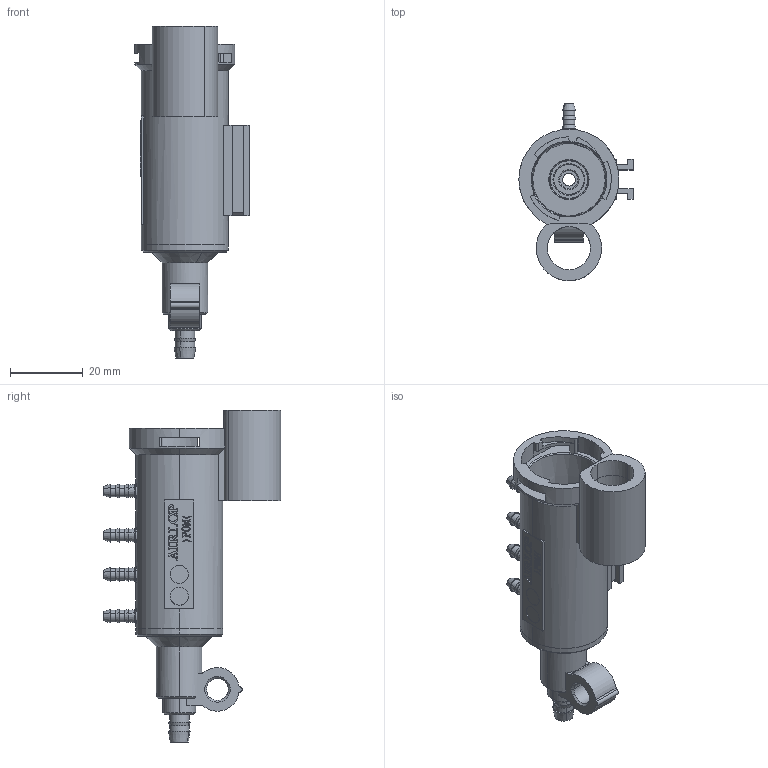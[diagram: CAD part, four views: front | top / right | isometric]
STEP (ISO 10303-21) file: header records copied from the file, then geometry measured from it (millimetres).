
FILE_DESCRIPTION(('CATIA V5 STEP Exchange'),'2;1');
FILE_NAME('C:\Users\Administrator\Desktop\座椅主动阻尼控制系统样件采购申请-\数模\BPC0010169.stp','2021-01-28T06:03:30+00:00',('none'),('none'),'CATIA Version 5 Release 20 GA (IN-10)','CATIA V5 STEP AP214','none');
FILE_SCHEMA(('AUTOMOTIVE_DESIGN { 1 0 10303 214 1 1 1 1 }'));
Length unit declared in the file: millimetre
Products named in the file (1): BPC0010169
Bounding box: 31.5 x 49 x 91.5 mm (x, y, z)
Volume: 14966.2 mm3; surface area: 14805.1 mm2
Topology: 1 solids, 1 shells, 1348 faces, 3849 edges, 2548 vertices
Faces by surface type: plane 1152, cylinder 112, cone 65, torus 18, extrusion 1
Entity records: 53049 total; most frequent: CARTESIAN_POINT 9117, ORIENTED_EDGE 7698, DIRECTION 6173, EDGE_CURVE 3849, VECTOR 3438, LINE 3437, VERTEX_POINT 2548, AXIS2_PLACEMENT_3D 1520
